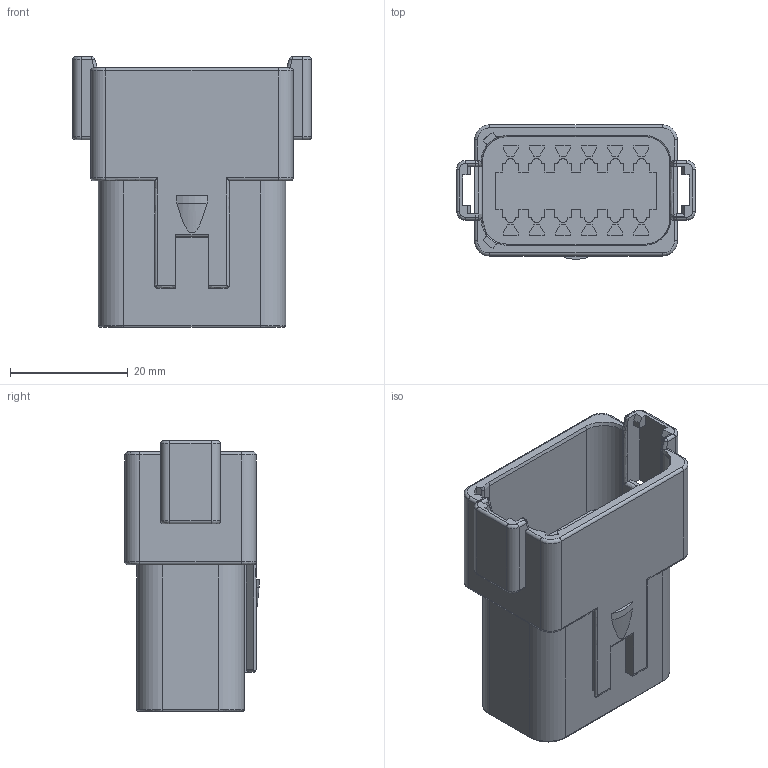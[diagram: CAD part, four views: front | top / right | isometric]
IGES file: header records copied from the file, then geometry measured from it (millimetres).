
Start section:  PTC IGES file: c-dt04-12pb-99-3d.igs
Global section: file name: c-dt04-12pb-99-3d.igs; native system: Pro/ENGINEER by Parametric Technology Corporation; preprocessor: 2011490; author: workeradm; organization: Unknown; units: millimetre
Bounding box: 40.56 x 22.76 x 45.92 mm (x, y, z)
Surface area: 8617.5 mm2 (no closed solid volume)
Topology: 0 solids, 0 shells, 572 faces, 2976 edges, 2976 vertices
Faces by surface type: bspline 370, revolution 202
